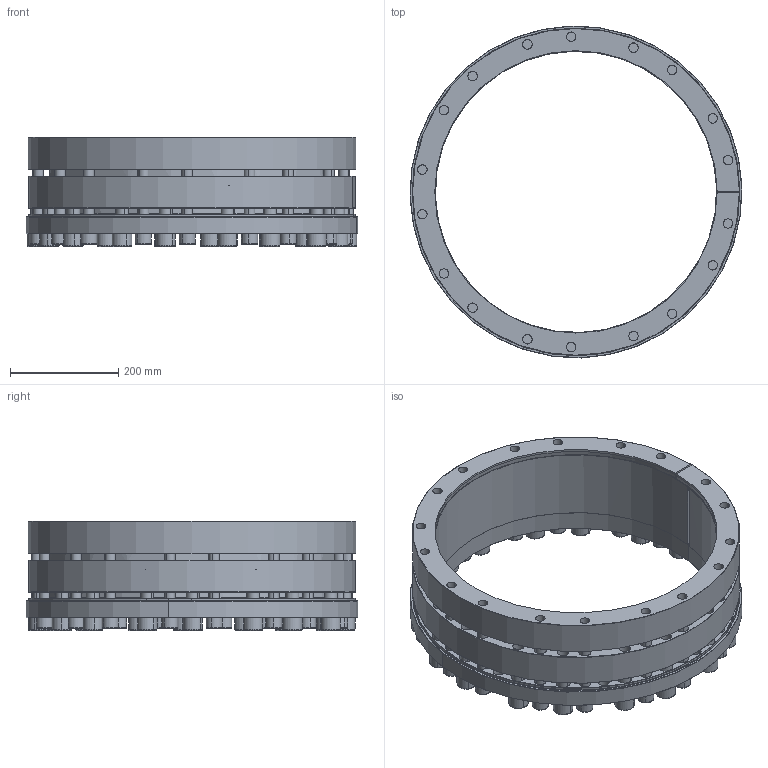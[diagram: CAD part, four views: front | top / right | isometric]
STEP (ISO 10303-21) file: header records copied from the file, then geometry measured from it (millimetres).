
FILE_DESCRIPTION (( 'STEP AP214' ), '1' );
FILE_NAME ('CONEX-P-520x605-P-020.step', '2015-11-30T21:15:20', ( '' ), ( '' ), 'SwSTEP 2.0', 'SolidWorks 2013', '' );
FILE_SCHEMA (( 'AUTOMOTIVE_DESIGN' ));
Length unit declared in the file: millimetre
Products named in the file (1): CONEX-P-520x605-P-020
Bounding box: 613.71 x 613.71 x 202 mm (x, y, z)
Volume: 12533074.5 mm3; surface area: 2094997.9 mm2
Topology: 39 solids, 39 shells, 1234 faces, 2838 edges, 1684 vertices
Faces by surface type: plane 562, cylinder 354, cone 170, torus 148
Entity records: 48648 total; most frequent: DIRECTION 6540, CARTESIAN_POINT 5801, ORIENTED_EDGE 5532, EDGE_CURVE 2766, AXIS2_PLACEMENT_3D 2567, VERTEX_POINT 1684, EDGE_LOOP 1506, LINE 1406
